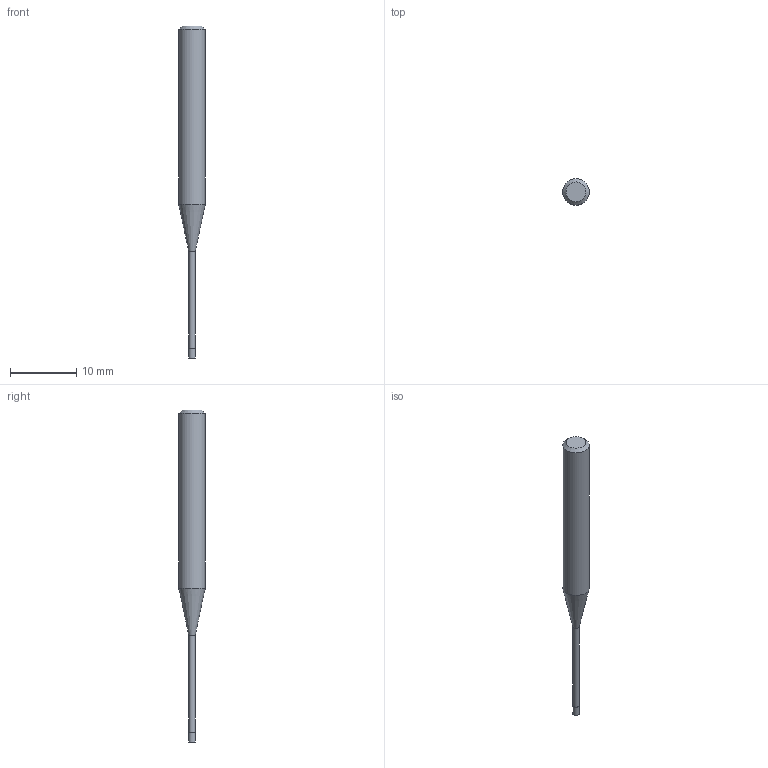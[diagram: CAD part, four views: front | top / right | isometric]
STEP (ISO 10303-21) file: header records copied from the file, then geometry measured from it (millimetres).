
FILE_DESCRIPTION((''),'2;1');
FILE_NAME('C:\Users\nsx150\AppData\Local\Temp\Mastercam 2021\17T8Q8S9EB\TEMP.step','2021-04-21T16:14:19',(''),(''),'STEP Write','Mastercam 2021 ... CNC Software, Inc.','');
FILE_SCHEMA(('AUTOMOTIVE_DESIGN'));
Length unit declared in the file: millimetre
Products named in the file (1): None
Bounding box: 4 x 4 x 50 mm (x, y, z)
Volume: 386 mm3; surface area: 453 mm2
Topology: 2 solids, 2 shells, 9 faces, 12 edges, 7 vertices
Faces by surface type: plane 4, cylinder 3, cone 2
Full cylindrical faces by diameter (mm): 0.95 x1, 1 x1, 4 x1
Entity records: 211 total; most frequent: DIRECTION 36, CARTESIAN_POINT 25, AXIS2_PLACEMENT_3D 18, ORIENTED_EDGE 14, EDGE_LOOP 14, STYLED_ITEM 12, ADVANCED_FACE 9, FACE_BOUND 8
